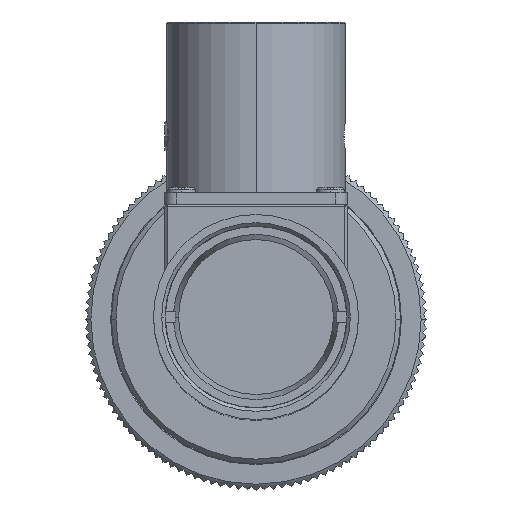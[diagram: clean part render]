
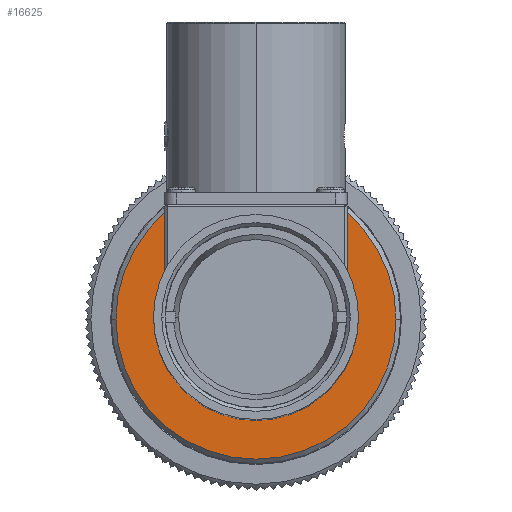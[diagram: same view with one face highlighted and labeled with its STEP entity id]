
A CAD part, top view. The second image highlights one B-rep face of the part: STEP entity #16625.
In plain terms, the highlighted planar face has unit normal (0, 0, 1).
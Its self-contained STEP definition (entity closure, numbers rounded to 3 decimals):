
#2947 = CARTESIAN_POINT ( 'NONE',  ( 0., 8., -35.34 ) ) ;
#2948 = AXIS2_PLACEMENT_3D ( 'NONE', #2947, #2981, #2980 ) ;
#2955 = FACE_BOUND ( 'NONE', #16629, .T. ) ;
#2969 = CARTESIAN_POINT ( 'NONE',  ( 0., 0., -35.34 ) ) ;
#2975 = CIRCLE ( 'NONE', #3024, 8. ) ;
#2976 = PLANE ( 'NONE',  #2948 ) ;
#2980 = DIRECTION ( 'NONE',  ( -1., 0., 0. ) ) ;
#2981 = DIRECTION ( 'NONE',  ( 0., 0., -1. ) ) ;
#2997 = FACE_OUTER_BOUND ( 'NONE', #16603, .T. ) ;
#3022 = DIRECTION ( 'NONE',  ( 1., 0., 0. ) ) ;
#3023 = DIRECTION ( 'NONE',  ( 0., 0., 1. ) ) ;
#3024 = AXIS2_PLACEMENT_3D ( 'NONE', #2969, #3023, #3022 ) ;
#3296 = DIRECTION ( 'NONE',  ( -1., 0., 0. ) ) ;
#3297 = DIRECTION ( 'NONE',  ( 0., 0., 1. ) ) ;
#3303 = AXIS2_PLACEMENT_3D ( 'NONE', #3305, #3297, #3296 ) ;
#3305 = CARTESIAN_POINT ( 'NONE',  ( 0., 0., -35.34 ) ) ;
#3307 = CIRCLE ( 'NONE', #3303, 12.3 ) ;
#8311 = EDGE_CURVE ( 'NONE', #8313, #8318, #15111, .T. ) ;
#8313 = VERTEX_POINT ( 'NONE', #15098 ) ;
#8318 = VERTEX_POINT ( 'NONE', #15137 ) ;
#8530 = VERTEX_POINT ( 'NONE', #15555 ) ;
#8541 = VERTEX_POINT ( 'NONE', #15587 ) ;
#8543 = EDGE_CURVE ( 'NONE', #8530, #8541, #15588, .T. ) ;
#15090 = DIRECTION ( 'NONE',  ( 1., 0., 0. ) ) ;
#15091 = DIRECTION ( 'NONE',  ( 0., 0., 1. ) ) ;
#15092 = CARTESIAN_POINT ( 'NONE',  ( 0., 0., -35.34 ) ) ;
#15093 = AXIS2_PLACEMENT_3D ( 'NONE', #15092, #15091, #15090 ) ;
#15098 = CARTESIAN_POINT ( 'NONE',  ( 8., 0., -35.34 ) ) ;
#15111 = CIRCLE ( 'NONE', #15093, 8. ) ;
#15137 = CARTESIAN_POINT ( 'NONE',  ( -8., 0., -35.34 ) ) ;
#15555 = CARTESIAN_POINT ( 'NONE',  ( 12.3, 0., -35.34 ) ) ;
#15573 = DIRECTION ( 'NONE',  ( -1., 0., 0. ) ) ;
#15574 = DIRECTION ( 'NONE',  ( 0., 0., 1. ) ) ;
#15575 = CARTESIAN_POINT ( 'NONE',  ( 0., 0., -35.34 ) ) ;
#15587 = CARTESIAN_POINT ( 'NONE',  ( -12.3, 0., -35.34 ) ) ;
#15588 = CIRCLE ( 'NONE', #15598, 12.3 ) ;
#15598 = AXIS2_PLACEMENT_3D ( 'NONE', #15575, #15574, #15573 ) ;
#16602 = ORIENTED_EDGE ( 'NONE', *, *, #8543, .T. ) ;
#16603 = EDGE_LOOP ( 'NONE', ( #16610, #16602 ) ) ;
#16606 = ORIENTED_EDGE ( 'NONE', *, *, #8311, .F. ) ;
#16607 = ORIENTED_EDGE ( 'NONE', *, *, #16632, .F. ) ;
#16610 = ORIENTED_EDGE ( 'NONE', *, *, #16825, .T. ) ;
#16625 = ADVANCED_FACE ( 'NONE', ( #2997, #2955 ), #2976, .F. ) ;
#16629 = EDGE_LOOP ( 'NONE', ( #16606, #16607 ) ) ;
#16632 = EDGE_CURVE ( 'NONE', #8318, #8313, #2975, .T. ) ;
#16825 = EDGE_CURVE ( 'NONE', #8541, #8530, #3307, .T. ) ;
